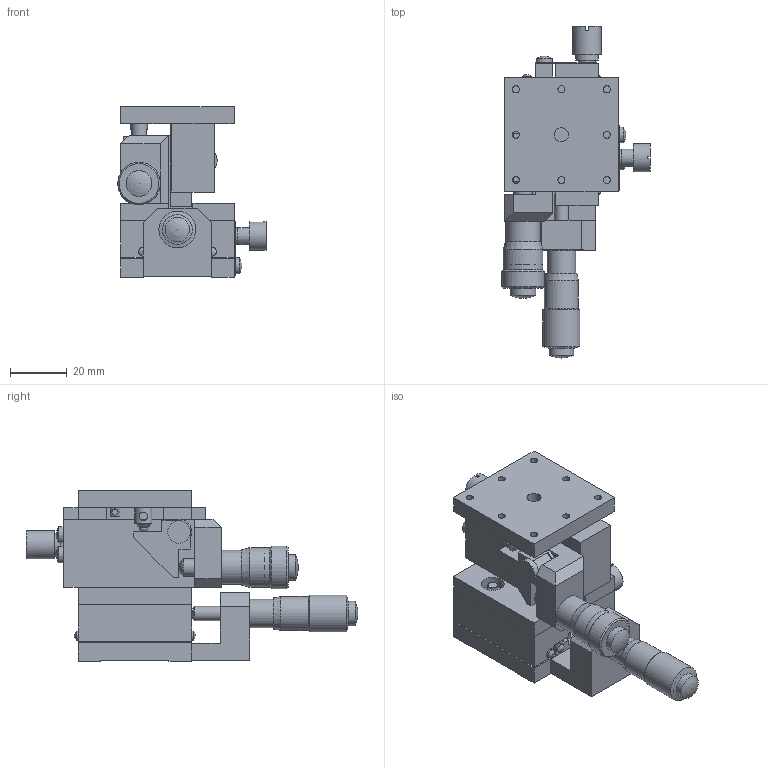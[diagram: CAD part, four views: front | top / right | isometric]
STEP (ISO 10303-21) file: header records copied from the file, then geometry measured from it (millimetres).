
FILE_DESCRIPTION( ( 'STEP AP203' ), '1' );
FILE_NAME( 'C:/3D-Trans/3D_B63-40A+090216.step', '2009-02-25T06:41:47', ( ' ' ), ( ' ' ), 'XStep 1.0', ' ', ' ' );
FILE_SCHEMA( ( 'CONFIG_CONTROL_DESIGN' ) );
Length unit declared in the file: millimetre
Products named in the file (7): 1; 2; 3; 4; 5; 6; 7
Bounding box: 52.3 x 116.8 x 60 mm (x, y, z)
Volume: 91719.9 mm3; surface area: 41566.5 mm2
Topology: 7 solids, 7 shells, 323 faces, 810 edges, 531 vertices
Faces by surface type: plane 190, cylinder 100, sphere 16, cone 16, bspline 1
Full cylindrical faces by diameter (mm): 2 x2, 2.2 x2, 2.5 x22, 3 x6, 3.2 x8, 3.5 x6, 4 x1, 5 x6, 5.6 x4, 6 x8, 6.35 x1, 6.5 x1, 8 x3, 8.6 x1, 9 x3, 10 x4, 10.5 x1, 12 x3, 13 x2, 13.6 x1, 14 x1, 15 x1
Entity records: 9201 total; most frequent: CARTESIAN_POINT 1747, DIRECTION 1484, ORIENTED_EDGE 1264, EDGE_CURVE 632, AXIS2_PLACEMENT_3D 530, EDGE_LOOP 517, VERTEX_POINT 481, LINE 424
